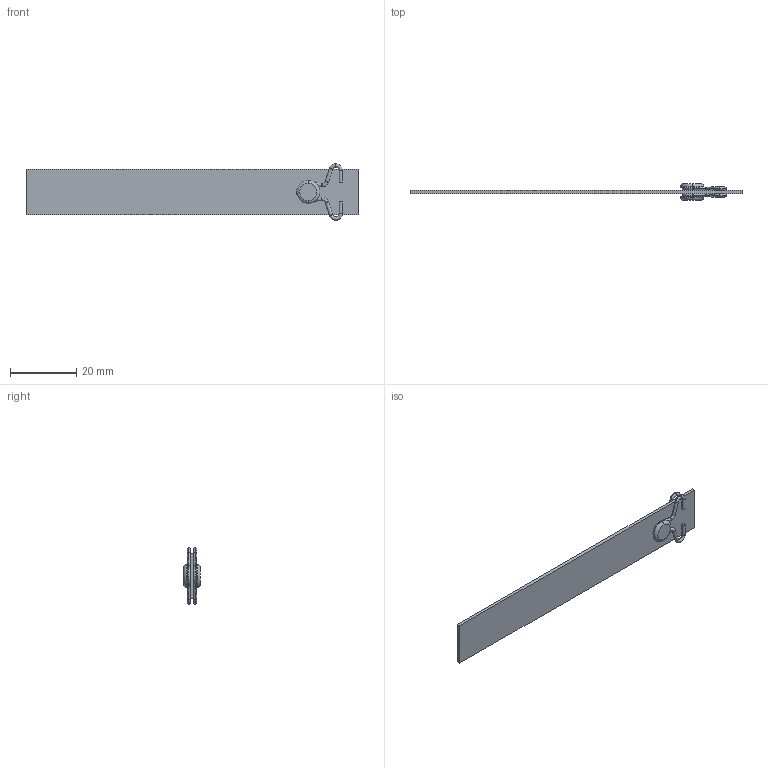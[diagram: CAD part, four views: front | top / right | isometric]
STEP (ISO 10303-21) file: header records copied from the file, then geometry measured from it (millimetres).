
FILE_DESCRIPTION (( 'STEP AP203' ), '1' );
FILE_NAME ('RLA-14x100.STEP', '2015-12-10T16:06:06', ( 'Balzi' ), ( '' ), 'SwSTEP 2.0', 'SolidWorks 2015', '' );
FILE_SCHEMA (( 'CONFIG_CONTROL_DESIGN' ));
Length unit declared in the file: millimetre
Products named in the file (1): RLA-14x100
Bounding box: 100 x 5 x 16.99 mm (x, y, z)
Volume: 1506.5 mm3; surface area: 3434 mm2
Topology: 5 solids, 5 shells, 84 faces, 162 edges, 88 vertices
Faces by surface type: torus 40, cylinder 30, plane 14
Entity records: 2199 total; most frequent: DIRECTION 452, CARTESIAN_POINT 335, ORIENTED_EDGE 324, AXIS2_PLACEMENT_3D 205, EDGE_CURVE 162, CIRCLE 120, VERTEX_POINT 88, EDGE_LOOP 86
